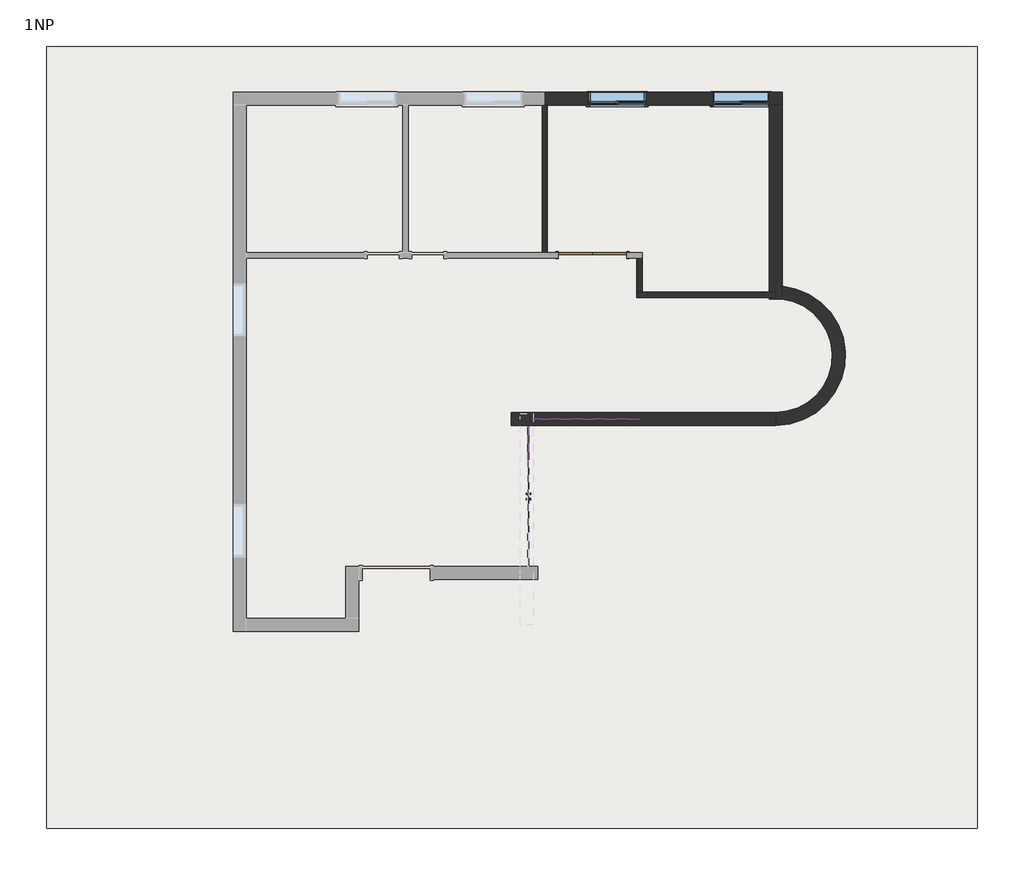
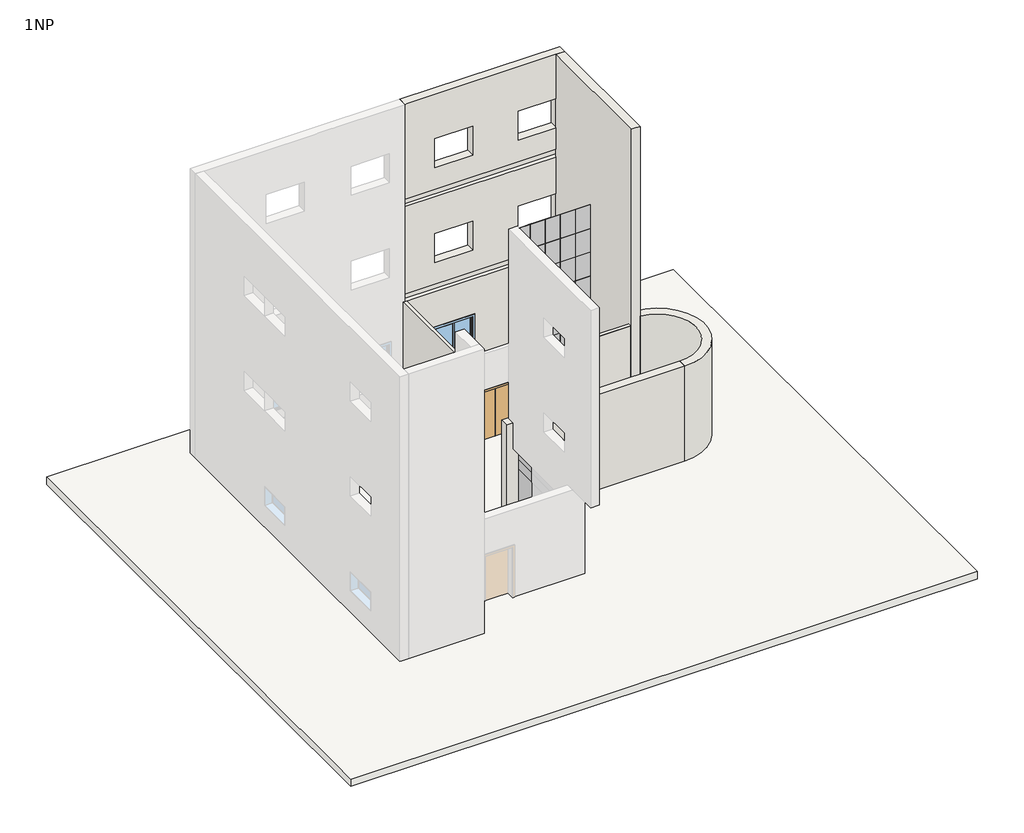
# One storey, part 2 of 2: 39 plates, 7 walls, 2 windows, 1 door, 1 slab.
"""IFC4 building model written with IfcOpenShell, lengths in millimetres."""

from ifc_helpers import new_model, si_unit, point, frame, frame_2d, origin, origin_with_axes, place, context, project, spatial, polyline, circle_curve, trimmed, segment, composite_curve, outline, extrude, faceted_brep, transform, mapped, element, save
from ifc_brep_helpers import plane_surface, revolved_surface, advanced_brep
from components import m_double_flush_1830_x_2083mm_7a28c534, system_panel_glazed_d6775a2a, system_panel_glazed_c3ce6646, system_panel_glazed_9e0dc01b, system_panel_glazed_e6f66e58, system_panel_glazed_1cea1c28, m_sliding_with_trim_1830_x_1220mm_f8e2f31e

model = new_model("IFC4")

# Units and contexts
model_context = context("Model", 3, world=origin())
ifc_project = project(units=[si_unit("LENGTHUNIT", "METRE", prefix="MILLI")], contexts=[model_context])

# Site, building, storey
site = spatial("IfcSite", under=ifc_project)
building = spatial("IfcBuilding", under=site)
storey = spatial("IfcBuildingStorey", under=building, Name="1NP", Elevation=0.0)

# Door
placement = place(None, origin())
m_double_flush_1830_x_2083mm_shape = m_double_flush_1830_x_2083mm_7a28c534(model_context)
element("IfcDoor", 1, ObjectType="M_Double-Flush : 1830 x 2083mm", at=placement, inside=storey, context=model_context, shape_type="MappedRepresentation", body=[
    mapped(m_double_flush_1830_x_2083mm_shape, transform((2118.243045, 5680.8503657, 0.0), x_axis=(0.9999999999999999, 0.0, 0.0), y_axis=(0.0, 0.9999999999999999, 0.0), z_axis=(0.0, 0.0, 1.0))),
])

# Plates
system_panel_glazed_shape = system_panel_glazed_d6775a2a(model_context)
element("IfcPlate", 2, ObjectType="System Panel : Glazed", at=placement, inside=storey, context=model_context, shape_type="MappedRepresentation", body=[
    mapped(system_panel_glazed_shape, transform((357.3775179, 624.8026806, 0.0), x_axis=(0.0, 1.0, 0.0), y_axis=(-1.0, 0.0, 0.0), z_axis=(0.0, 0.0, 1.0))),
])
system_panel_glazed_2_shape = system_panel_glazed_c3ce6646(model_context)
element("IfcPlate", 3, ObjectType="System Panel : Glazed", at=placement, inside=storey, context=model_context, shape_type="MappedRepresentation", body=[
    mapped(system_panel_glazed_2_shape, transform((1257.3775179, 1249.8026806, 5000.0), x_axis=(1.0, 0.0, 0.0), y_axis=(0.0, 1.0, 0.0), z_axis=(0.0, 0.0, 1.0))),
])
element("IfcPlate", 4, ObjectType="System Panel : Glazed", at=placement, inside=storey, context=model_context, shape_type="MappedRepresentation", body=[
    mapped(system_panel_glazed_2_shape, transform((1857.3775179, 1249.8026806, 5000.0), x_axis=(1.0, 0.0, 0.0), y_axis=(0.0, 1.0, 0.0), z_axis=(0.0, 0.0, 1.0))),
])
element("IfcPlate", 5, ObjectType="System Panel : Glazed", at=placement, inside=storey, context=model_context, shape_type="MappedRepresentation", body=[
    mapped(system_panel_glazed_2_shape, transform((2457.3775179, 1249.8026806, 5000.0), x_axis=(1.0, 0.0, 0.0), y_axis=(0.0, 1.0, 0.0), z_axis=(0.0, 0.0, 1.0))),
])
element("IfcPlate", 6, ObjectType="System Panel : Glazed", at=placement, inside=storey, context=model_context, shape_type="MappedRepresentation", body=[
    mapped(system_panel_glazed_2_shape, transform((1257.3775179, 1249.8026806, 6000.0), x_axis=(1.0, 0.0, 0.0), y_axis=(0.0, 1.0, 0.0), z_axis=(0.0, 0.0, 1.0))),
])
element("IfcPlate", 7, ObjectType="System Panel : Glazed", at=placement, inside=storey, context=model_context, shape_type="MappedRepresentation", body=[
    mapped(system_panel_glazed_2_shape, transform((1857.3775179, 1249.8026806, 6000.0), x_axis=(1.0, 0.0, 0.0), y_axis=(0.0, 1.0, 0.0), z_axis=(0.0, 0.0, 1.0))),
])
element("IfcPlate", 8, ObjectType="System Panel : Glazed", at=placement, inside=storey, context=model_context, shape_type="MappedRepresentation", body=[
    mapped(system_panel_glazed_2_shape, transform((2457.3775179, 1249.8026806, 6000.0), x_axis=(1.0, 0.0, 0.0), y_axis=(0.0, 1.0, 0.0), z_axis=(0.0, 0.0, 1.0))),
])
element("IfcPlate", 9, ObjectType="System Panel : Glazed", at=placement, inside=storey, context=model_context, shape_type="MappedRepresentation", body=[
    mapped(system_panel_glazed_2_shape, transform((1257.3775179, 1249.8026806, 7000.0), x_axis=(1.0, 0.0, 0.0), y_axis=(0.0, 1.0, 0.0), z_axis=(0.0, 0.0, 1.0))),
])
element("IfcPlate", 10, ObjectType="System Panel : Glazed", at=placement, inside=storey, context=model_context, shape_type="MappedRepresentation", body=[
    mapped(system_panel_glazed_2_shape, transform((1857.3775179, 1249.8026806, 7000.0), x_axis=(1.0, 0.0, 0.0), y_axis=(0.0, 1.0, 0.0), z_axis=(0.0, 0.0, 1.0))),
])
element("IfcPlate", 11, ObjectType="System Panel : Glazed", at=placement, inside=storey, context=model_context, shape_type="MappedRepresentation", body=[
    mapped(system_panel_glazed_2_shape, transform((2457.3775179, 1249.8026806, 7000.0), x_axis=(1.0, 0.0, 0.0), y_axis=(0.0, 1.0, 0.0), z_axis=(0.0, 0.0, 1.0))),
])
element("IfcPlate", 12, ObjectType="System Panel : Glazed", at=placement, inside=storey, context=model_context, shape_type="MappedRepresentation", body=[
    mapped(system_panel_glazed_2_shape, transform((1257.3775179, 1249.8026806, 8000.0), x_axis=(1.0, 0.0, 0.0), y_axis=(0.0, 1.0, 0.0), z_axis=(0.0, 0.0, 1.0))),
])
element("IfcPlate", 13, ObjectType="System Panel : Glazed", at=placement, inside=storey, context=model_context, shape_type="MappedRepresentation", body=[
    mapped(system_panel_glazed_2_shape, transform((1857.3775179, 1249.8026806, 8000.0), x_axis=(1.0, 0.0, 0.0), y_axis=(0.0, 1.0, 0.0), z_axis=(0.0, 0.0, 1.0))),
])
element("IfcPlate", 14, ObjectType="System Panel : Glazed", at=placement, inside=storey, context=model_context, shape_type="MappedRepresentation", body=[
    mapped(system_panel_glazed_2_shape, transform((2457.3775179, 1249.8026806, 8000.0), x_axis=(1.0, 0.0, 0.0), y_axis=(0.0, 1.0, 0.0), z_axis=(0.0, 0.0, 1.0))),
])
element("IfcPlate", 15, ObjectType="System Panel : Glazed", at=placement, inside=storey, context=model_context, shape_type="MappedRepresentation", body=[
    mapped(system_panel_glazed_2_shape, transform((1257.3775179, 1249.8026806, 9000.0), x_axis=(1.0, 0.0, 0.0), y_axis=(0.0, 1.0, 0.0), z_axis=(0.0, 0.0, 1.0))),
])
element("IfcPlate", 16, ObjectType="System Panel : Glazed", at=placement, inside=storey, context=model_context, shape_type="MappedRepresentation", body=[
    mapped(system_panel_glazed_2_shape, transform((1857.3775179, 1249.8026806, 9000.0), x_axis=(1.0, 0.0, 0.0), y_axis=(0.0, 1.0, 0.0), z_axis=(0.0, 0.0, 1.0))),
])
element("IfcPlate", 17, ObjectType="System Panel : Glazed", at=placement, inside=storey, context=model_context, shape_type="MappedRepresentation", body=[
    mapped(system_panel_glazed_2_shape, transform((2457.3775179, 1249.8026806, 9000.0), x_axis=(1.0, 0.0, 0.0), y_axis=(0.0, 1.0, 0.0), z_axis=(0.0, 0.0, 1.0))),
])
element("IfcPlate", 18, ObjectType="System Panel : Glazed", at=placement, inside=storey, context=model_context, shape_type="MappedRepresentation", body=[
    mapped(system_panel_glazed_2_shape, transform((1257.3775179, 1249.8026806, 10000.0), x_axis=(1.0, 0.0, 0.0), y_axis=(0.0, 1.0, 0.0), z_axis=(0.0, 0.0, 1.0))),
])
element("IfcPlate", 19, ObjectType="System Panel : Glazed", at=placement, inside=storey, context=model_context, shape_type="MappedRepresentation", body=[
    mapped(system_panel_glazed_2_shape, transform((1857.3775179, 1249.8026806, 10000.0), x_axis=(1.0, 0.0, 0.0), y_axis=(0.0, 1.0, 0.0), z_axis=(0.0, 0.0, 1.0))),
])
element("IfcPlate", 20, ObjectType="System Panel : Glazed", at=placement, inside=storey, context=model_context, shape_type="MappedRepresentation", body=[
    mapped(system_panel_glazed_2_shape, transform((2457.3775179, 1249.8026806, 10000.0), x_axis=(1.0, 0.0, 0.0), y_axis=(0.0, 1.0, 0.0), z_axis=(0.0, 0.0, 1.0))),
])
element("IfcPlate", 21, ObjectType="System Panel : Glazed", at=placement, inside=storey, context=model_context, shape_type="MappedRepresentation", body=[
    mapped(system_panel_glazed_2_shape, transform((1257.3775179, 1249.8026806, 11000.0), x_axis=(1.0, 0.0, 0.0), y_axis=(0.0, 1.0, 0.0), z_axis=(0.0, 0.0, 1.0))),
])
element("IfcPlate", 22, ObjectType="System Panel : Glazed", at=placement, inside=storey, context=model_context, shape_type="MappedRepresentation", body=[
    mapped(system_panel_glazed_2_shape, transform((1857.3775179, 1249.8026806, 11000.0), x_axis=(1.0, 0.0, 0.0), y_axis=(0.0, 1.0, 0.0), z_axis=(0.0, 0.0, 1.0))),
])
element("IfcPlate", 23, ObjectType="System Panel : Glazed", at=placement, inside=storey, context=model_context, shape_type="MappedRepresentation", body=[
    mapped(system_panel_glazed_2_shape, transform((2457.3775179, 1249.8026806, 11000.0), x_axis=(1.0, 0.0, 0.0), y_axis=(0.0, 1.0, 0.0), z_axis=(0.0, 0.0, 1.0))),
])
element("IfcPlate", 24, ObjectType="System Panel : Glazed", at=placement, inside=storey, context=model_context, shape_type="MappedRepresentation", body=[
    mapped(system_panel_glazed_2_shape, transform((3057.3775179, 1249.8026806, 4000.0), x_axis=(1.0, 0.0, 0.0), y_axis=(0.0, 1.0, 0.0), z_axis=(0.0, 0.0, 1.0))),
])
element("IfcPlate", 25, ObjectType="System Panel : Glazed", at=placement, inside=storey, context=model_context, shape_type="MappedRepresentation", body=[
    mapped(system_panel_glazed_2_shape, transform((3057.3775179, 1249.8026806, 5000.0), x_axis=(1.0, 0.0, 0.0), y_axis=(0.0, 1.0, 0.0), z_axis=(0.0, 0.0, 1.0))),
])
element("IfcPlate", 26, ObjectType="System Panel : Glazed", at=placement, inside=storey, context=model_context, shape_type="MappedRepresentation", body=[
    mapped(system_panel_glazed_2_shape, transform((3057.3775179, 1249.8026806, 6000.0), x_axis=(1.0, 0.0, 0.0), y_axis=(0.0, 1.0, 0.0), z_axis=(0.0, 0.0, 1.0))),
])
element("IfcPlate", 27, ObjectType="System Panel : Glazed", at=placement, inside=storey, context=model_context, shape_type="MappedRepresentation", body=[
    mapped(system_panel_glazed_2_shape, transform((3057.3775179, 1249.8026806, 7000.0), x_axis=(1.0, 0.0, 0.0), y_axis=(0.0, 1.0, 0.0), z_axis=(0.0, 0.0, 1.0))),
])
element("IfcPlate", 28, ObjectType="System Panel : Glazed", at=placement, inside=storey, context=model_context, shape_type="MappedRepresentation", body=[
    mapped(system_panel_glazed_2_shape, transform((3057.3775179, 1249.8026806, 8000.0), x_axis=(1.0, 0.0, 0.0), y_axis=(0.0, 1.0, 0.0), z_axis=(0.0, 0.0, 1.0))),
])
element("IfcPlate", 29, ObjectType="System Panel : Glazed", at=placement, inside=storey, context=model_context, shape_type="MappedRepresentation", body=[
    mapped(system_panel_glazed_2_shape, transform((3057.3775179, 1249.8026806, 9000.0), x_axis=(1.0, 0.0, 0.0), y_axis=(0.0, 1.0, 0.0), z_axis=(0.0, 0.0, 1.0))),
])
element("IfcPlate", 30, ObjectType="System Panel : Glazed", at=placement, inside=storey, context=model_context, shape_type="MappedRepresentation", body=[
    mapped(system_panel_glazed_2_shape, transform((3057.3775179, 1249.8026806, 10000.0), x_axis=(1.0, 0.0, 0.0), y_axis=(0.0, 1.0, 0.0), z_axis=(0.0, 0.0, 1.0))),
])
element("IfcPlate", 31, ObjectType="System Panel : Glazed", at=placement, inside=storey, context=model_context, shape_type="MappedRepresentation", body=[
    mapped(system_panel_glazed_2_shape, transform((3057.3775179, 1249.8026806, 11000.0), x_axis=(1.0, 0.0, 0.0), y_axis=(0.0, 1.0, 0.0), z_axis=(0.0, 0.0, 1.0))),
])
system_panel_glazed_3_shape = system_panel_glazed_9e0dc01b(model_context)
element("IfcPlate", 32, ObjectType="System Panel : Glazed", at=placement, inside=storey, context=model_context, shape_type="MappedRepresentation", body=[
    mapped(system_panel_glazed_3_shape, transform((744.8775179, 1249.8026806, 5000.0), x_axis=(1.0, 0.0, 0.0), y_axis=(0.0, 1.0, 0.0), z_axis=(0.0, 0.0, 1.0))),
])
element("IfcPlate", 33, ObjectType="System Panel : Glazed", at=placement, inside=storey, context=model_context, shape_type="MappedRepresentation", body=[
    mapped(system_panel_glazed_3_shape, transform((744.8775179, 1249.8026806, 6000.0), x_axis=(1.0, 0.0, 0.0), y_axis=(0.0, 1.0, 0.0), z_axis=(0.0, 0.0, 1.0))),
])
element("IfcPlate", 34, ObjectType="System Panel : Glazed", at=placement, inside=storey, context=model_context, shape_type="MappedRepresentation", body=[
    mapped(system_panel_glazed_3_shape, transform((744.8775179, 1249.8026806, 7000.0), x_axis=(1.0, 0.0, 0.0), y_axis=(0.0, 1.0, 0.0), z_axis=(0.0, 0.0, 1.0))),
])
element("IfcPlate", 35, ObjectType="System Panel : Glazed", at=placement, inside=storey, context=model_context, shape_type="MappedRepresentation", body=[
    mapped(system_panel_glazed_3_shape, transform((744.8775179, 1249.8026806, 8000.0), x_axis=(1.0, 0.0, 0.0), y_axis=(0.0, 1.0, 0.0), z_axis=(0.0, 0.0, 1.0))),
])
element("IfcPlate", 36, ObjectType="System Panel : Glazed", at=placement, inside=storey, context=model_context, shape_type="MappedRepresentation", body=[
    mapped(system_panel_glazed_3_shape, transform((744.8775179, 1249.8026806, 9000.0), x_axis=(1.0, 0.0, 0.0), y_axis=(0.0, 1.0, 0.0), z_axis=(0.0, 0.0, 1.0))),
])
element("IfcPlate", 37, ObjectType="System Panel : Glazed", at=placement, inside=storey, context=model_context, shape_type="MappedRepresentation", body=[
    mapped(system_panel_glazed_3_shape, transform((744.8775179, 1249.8026806, 10000.0), x_axis=(1.0, 0.0, 0.0), y_axis=(0.0, 1.0, 0.0), z_axis=(0.0, 0.0, 1.0))),
])
element("IfcPlate", 38, ObjectType="System Panel : Glazed", at=placement, inside=storey, context=model_context, shape_type="MappedRepresentation", body=[
    mapped(system_panel_glazed_3_shape, transform((744.8775179, 1249.8026806, 11000.0), x_axis=(1.0, 0.0, 0.0), y_axis=(0.0, 1.0, 0.0), z_axis=(0.0, 0.0, 1.0))),
])
system_panel_glazed_4_shape = system_panel_glazed_e6f66e58(model_context)
element("IfcPlate", 39, ObjectType="System Panel : Glazed", at=placement, inside=storey, context=model_context, shape_type="MappedRepresentation", body=[
    mapped(system_panel_glazed_4_shape, transform((357.3775179, 624.8026806, 2000.0), x_axis=(0.0, 1.0, 0.0), y_axis=(-1.0, 0.0, 0.0), z_axis=(0.0, 0.0, 1.0))),
])
system_panel_glazed_5_shape = system_panel_glazed_1cea1c28(model_context)
element("IfcPlate", 40, ObjectType="System Panel : Glazed", at=placement, inside=storey, context=model_context, shape_type="MappedRepresentation", body=[
    mapped(system_panel_glazed_5_shape, transform((357.3775179, 624.8026806, 2400.0), x_axis=(0.0, 1.0, 0.0), y_axis=(-1.0, 0.0, 0.0), z_axis=(0.0, 0.0, 1.0))),
])

# Slab
element("IfcSlab", 41, ObjectType="Generic 300mm", at=placement, inside=storey, context=model_context, shape_type="SweptSolid", body=[
    extrude(outline(polyline([(12456.1188993, 11292.3429374), (12456.1188993, -9707.6570626), (-12543.8811007, -9707.6570626), (-12543.8811007, 11292.3429374), (12456.1188993, 11292.3429374)])), frame((0.0, 0.0, -300.0), z_axis=(0.0, 0.0, 1.0), x_axis=(1.0, 0.0, 0.0)), (0.0, 0.0, 1.0), 300.0),
])

# Walls
element("IfcWall", 42, ObjectType="Exterior - Brick on Mtl. Stud", at=placement, inside=storey, context=model_context, shape_type="Brep", body=[
    faceted_brep([(7208.993045, 10061.6003657, 0.0), (833.993045, 10061.6003657, 0.0), (833.993045, 10061.6003657, 12000.0), (7208.993045, 10061.6003657, 12000.0), (5345.6922824, 10061.6003657, 6133.6), (5345.6922824, 10061.6003657, 4914.4), (6869.6922824, 10061.6003657, 4914.4), (6869.6922824, 10061.6003657, 6133.6), (2019.6922824, 10061.6003657, 6133.6), (2019.6922824, 10061.6003657, 4914.4), (3543.6922824, 10061.6003657, 4914.4), (3543.6922824, 10061.6003657, 6133.6), (5345.6922824, 10061.6003657, 10133.6), (5345.6922824, 10061.6003657, 8914.4), (6869.6922824, 10061.6003657, 8914.4), (6869.6922824, 10061.6003657, 10133.6), (2019.6922824, 10061.6003657, 10133.6), (2019.6922824, 10061.6003657, 8914.4), (3543.6922824, 10061.6003657, 8914.4), (3543.6922824, 10061.6003657, 10133.6), (5345.6922824, 10061.6003657, 2133.6), (5345.6922824, 10061.6003657, 914.4), (6869.6922824, 10061.6003657, 914.4), (6869.6922824, 10061.6003657, 2133.6), (2019.6922824, 10061.6003657, 2133.6), (2019.6922824, 10061.6003657, 914.4), (3543.6922824, 10061.6003657, 914.4), (3543.6922824, 10061.6003657, 2133.6), (833.993045, 9711.6003657, 0.0), (903.243045, 9711.6003657, 0.0), (6858.993045, 9711.6003657, 0.0), (7208.993045, 9711.6003657, 0.0), (7208.993045, 9711.6003657, 12000.0), (6858.993045, 9711.6003657, 12000.0), (903.243045, 9711.6003657, 12000.0), (833.993045, 9711.6003657, 12000.0), (833.993045, 9711.6003657, 8000.0), (903.243045, 9711.6003657, 8000.0), (7023.993045, 9711.6003657, 8000.0), (7023.993045, 9711.6003657, 7680.0), (833.993045, 9711.6003657, 7680.0), (833.993045, 9711.6003657, 4000.0), (7023.993045, 9711.6003657, 4000.0), (7023.993045, 9711.6003657, 3680.0), (903.243045, 9711.6003657, 3680.0), (833.993045, 9711.6003657, 3680.0), (5345.6922824, 9711.6003657, 4914.4), (5345.6922824, 9711.6003657, 6133.6), (6869.6922824, 9711.6003657, 6133.6), (6869.6922824, 9711.6003657, 4914.4), (2019.6922824, 9711.6003657, 4914.4), (2019.6922824, 9711.6003657, 6133.6), (3543.6922824, 9711.6003657, 6133.6), (3543.6922824, 9711.6003657, 4914.4), (5345.6922824, 9711.6003657, 8914.4), (5345.6922824, 9711.6003657, 10133.6), (6869.6922824, 9711.6003657, 10133.6), (6869.6922824, 9711.6003657, 8914.4), (2019.6922824, 9711.6003657, 8914.4), (2019.6922824, 9711.6003657, 10133.6), (3543.6922824, 9711.6003657, 10133.6), (3543.6922824, 9711.6003657, 8914.4), (5345.6922824, 9711.6003657, 914.4), (5345.6922824, 9711.6003657, 2133.6), (6869.6922824, 9711.6003657, 2133.6), (6869.6922824, 9711.6003657, 914.4), (2019.6922824, 9711.6003657, 914.4), (2019.6922824, 9711.6003657, 2133.6), (3543.6922824, 9711.6003657, 2133.6), (3543.6922824, 9711.6003657, 914.4), (833.993045, 9876.6003657, 3680.0), (833.993045, 9876.6003657, 4000.0), (833.993045, 9876.6003657, 7680.0), (833.993045, 9876.6003657, 8000.0), (7023.993045, 9876.6003657, 3680.0), (7023.993045, 9876.6003657, 4000.0), (7023.993045, 9876.6003657, 7680.0), (7023.993045, 9876.6003657, 8000.0)], [[[0, 1, 2, 3], [4, 5, 6, 7], [8, 9, 10, 11], [12, 13, 14, 15], [16, 17, 18, 19], [20, 21, 22, 23], [24, 25, 26, 27]], [[28, 29, 30, 31, 32, 33, 34, 35, 36, 37, 38, 39, 40, 41, 42, 43, 44, 45], [46, 47, 48, 49], [50, 51, 52, 53], [54, 55, 56, 57], [58, 59, 60, 61], [62, 63, 64, 65], [66, 67, 68, 69]], [[1, 0, 31, 30, 29, 28]], [[3, 2, 35, 34, 33, 32]], [[0, 3, 32, 31]], [[1, 28, 45, 70, 71, 41, 40, 72, 73, 36, 35, 2]], [[5, 4, 47, 46]], [[6, 5, 46, 49]], [[7, 6, 49, 48]], [[4, 7, 48, 47]], [[9, 8, 51, 50]], [[10, 9, 50, 53]], [[11, 10, 53, 52]], [[8, 11, 52, 51]], [[13, 12, 55, 54]], [[14, 13, 54, 57]], [[15, 14, 57, 56]], [[12, 15, 56, 55]], [[17, 16, 59, 58]], [[18, 17, 58, 61]], [[19, 18, 61, 60]], [[16, 19, 60, 59]], [[21, 20, 63, 62]], [[22, 21, 62, 65]], [[23, 22, 65, 64]], [[20, 23, 64, 63]], [[25, 24, 67, 66]], [[26, 25, 66, 69]], [[27, 26, 69, 68]], [[24, 27, 68, 67]], [[43, 74, 70, 45, 44]], [[71, 75, 42, 41]], [[74, 75, 71, 70]], [[75, 74, 43, 42]], [[39, 76, 72, 40]], [[73, 77, 38, 37, 36]], [[76, 77, 73, 72]], [[77, 76, 39, 38]]]),
])
element("IfcWall", 43, ObjectType="Exterior - Brick on Mtl. Stud", at=placement, inside=storey, context=model_context, shape_type="AdvancedBrep", body=[
    advanced_brep(
    [(6858.993045, 9711.6003657, 0.0), (6858.993045, 4501.5261065, 0.0), (6858.993045, 4501.5261065, 12000.0), (6858.993045, 9711.6003657, 12000.0), (7208.993045, 9711.6003657, 0.0), (7208.993045, 9711.6003657, 12000.0), (7208.993045, 4501.5261065, 12000.0), (7208.993045, 4501.5261065, 4000.0), (7208.993045, 4501.5261065, 0.0), (7208.993045, 4853.415836, 0.0)],
    [
        (0, 1),
        (1, 2),
        (2, 3),
        (3, 0),
        (4, 5),
        (5, 6),
        (6, 7),
        (7, 8),
        (8, 9),
        (9, 4),
        (0, 4),
        (8, 1, circle_curve(frame((7033.993045, 2986.6003657, 0.0), z_axis=(0.0, 0.0, 1.0), x_axis=(1.0, 0.0, 0.0)), 1525.0)),
        (2, 6, circle_curve(frame((7033.993045, 2986.6003657, 12000.0), z_axis=(0.0, 0.0, -1.0), x_axis=(1.0, 0.0, 0.0)), 1525.0)),
        (5, 3),
    ],
    [
        plane_surface(frame((6858.993045, 9719.3239111, 0.0), z_axis=(-1.0, 0.0, 0.0), x_axis=(0.0, -1.0, 0.0))),
        plane_surface(frame((7208.993045, 9719.3239111, 0.0), z_axis=(1.0, 0.0, 0.0), x_axis=(0.0, 1.0, 0.0))),
        plane_surface(frame((6858.993045, 9886.6003657, 0.0), z_axis=(0.0, 0.0, -1.0), x_axis=(1.0, 0.0, 0.0))),
        plane_surface(frame((6858.993045, 4686.6003657, 12000.0), z_axis=(0.0, 0.0, 1.0), x_axis=(1.0, 0.0, 0.0))),
        revolved_surface(polyline([(8558.993045, 2986.6003657, 0.0), (8558.993045, 2986.6003657, 12000.0)]), (7033.993045, 2986.6003657, 0.0), (0.0, 0.0, -1.0)),
        plane_surface(frame((7044.6922824, 9711.6003657, 0.0), z_axis=(0.0, 1.0, 0.0), x_axis=(1.0, 0.0, 0.0))),
    ],
    [
        (0, [[1, 2, 3, 4]]),
        (1, [[5, 6, 7, 8, 9, 10]]),
        (2, [[-1, 11, -10, -9, 12]]),
        (3, [[-3, 13, -6, 14]]),
        (4, [[-2, -12, -8, -7, -13]]),
        (5, [[-4, -14, -5, -11]]),
    ],
),
])
element("IfcWall", 44, ObjectType="Exterior - Brick on Mtl. Stud", at=placement, inside=storey, context=model_context, shape_type="SweptSolid", body=[
    extrude(outline(composite_curve([segment(polyline([(7033.993045, 1111.6003657), (7033.993045, 1461.6003657)]), True, "CONTINUOUS"), segment(trimmed(circle_curve(frame_2d((7033.993045, 2986.6003657)), 1525.0), [point((7033.993045, 1461.6003657))], [point((7208.993045, 4501.5261065))], True, "CARTESIAN"), True, "CONTINUOUS"), segment(polyline([(7208.993045, 4501.5261065), (7208.993045, 4853.415836)]), True, "CONTINUOUS"), segment(trimmed(circle_curve(frame_2d((7033.993045, 2986.6003657)), 1875.0), [point((7208.993045, 4853.415836))], [point((7033.993045, 1111.6003657))], False, "CARTESIAN"), True, "CONTINUOUS")], self_intersect=False)), origin_with_axes(), (0.0, 0.0, 1.0), 4000.0),
])
element("IfcWall", 45, ObjectType="Exterior - Brick on Mtl. Stud", at=placement, inside=storey, context=model_context, shape_type="SweptSolid", body=[
    extrude(outline(polyline([(-66.006955, 1461.6003657), (7033.993045, 1461.6003657), (7033.993045, 1111.6003657), (-66.006955, 1111.6003657), (-66.006955, 1461.6003657)])), origin_with_axes(), (0.0, 0.0, 1.0), 4000.0),
])
element("IfcWall", 46, ObjectType="Interior - 138mm Partition (1-hr)", at=placement, inside=storey, context=model_context, shape_type="Brep", body=[
    faceted_brep([(903.243045, 5750.1003657, 0.0), (903.243045, 9711.6003657, 0.0), (903.243045, 9711.6003657, 3680.0), (903.243045, 5750.1003657, 3680.0), (764.743045, 5750.1003657, 0.0), (764.743045, 5750.1003657, 3680.0), (764.743045, 9711.6003657, 3680.0), (764.743045, 9711.6003657, 0.0), (833.993045, 9711.6003657, 0.0), (833.993045, 9711.6003657, 3680.0)], [[[0, 1, 2, 3]], [[4, 5, 6, 7]], [[1, 0, 4, 7, 8]], [[2, 1, 8, 7, 6, 9]], [[0, 3, 5, 4]], [[3, 2, 9, 6, 5]]]),
])
element("IfcWall", 47, ObjectType="Interior - 138mm Partition (1-hr)", at=placement, inside=storey, context=model_context, shape_type="Brep", body=[
    faceted_brep([(7033.993045, 4690.0261065, 0.0), (3447.493045, 4690.0261065, 0.0), (3308.993045, 4690.0261065, 0.0), (3308.993045, 4690.0261065, 3680.0), (3447.493045, 4690.0261065, 3680.0), (7023.993045, 4690.0261065, 3680.0), (7033.993045, 4690.0261065, 3680.0), (7033.993045, 4551.5261065, 0.0), (7033.993045, 4551.5261065, 3680.0), (7023.993045, 4551.5261065, 3680.0), (3308.993045, 4551.5261065, 3680.0), (3308.993045, 4551.5261065, 0.0), (7033.993045, 4561.5261065, 3680.0), (3308.993045, 4561.5261065, 3680.0), (7023.993045, 4561.5261065, 3680.0)], [[[0, 1, 2, 3, 4, 5, 6]], [[7, 8, 9, 10, 11]], [[2, 1, 0, 7, 11]], [[0, 6, 12, 8, 7]], [[3, 2, 11, 10, 13]], [[13, 10, 9, 14]], [[6, 5, 14, 12]], [[14, 9, 8, 12]], [[5, 4, 3, 13, 14]]]),
])
element("IfcWall", 48, ObjectType="Interior - 138mm Partition (1-hr)", at=placement, inside=storey, context=model_context, shape_type="SweptSolid", body=[
    extrude(outline(polyline([(3447.493045, 5611.6003657), (3447.493045, 4690.0261065), (3308.993045, 4690.0261065), (3308.993045, 5611.6003657), (3447.493045, 5611.6003657)])), origin_with_axes(), (0.0, 0.0, 1.0), 3680.0),
])

# Windows
m_sliding_with_trim_1830_x_1220mm_shape = m_sliding_with_trim_1830_x_1220mm_f8e2f31e(model_context)
element("IfcWindow", 49, ObjectType="M_Sliding with Trim : 1830 x 1220mm", at=placement, inside=storey, context=model_context, shape_type="MappedRepresentation", body=[
    mapped(m_sliding_with_trim_1830_x_1220mm_shape, transform((6107.6922824, 9886.6003657, 0.0), x_axis=(-1.0, 0.0, 0.0), y_axis=(0.0, -1.0, 0.0), z_axis=(0.0, 0.0, 1.0))),
])
element("IfcWindow", 50, ObjectType="M_Sliding with Trim : 1830 x 1220mm", at=placement, inside=storey, context=model_context, shape_type="MappedRepresentation", body=[
    mapped(m_sliding_with_trim_1830_x_1220mm_shape, transform((2781.6922824, 9886.6003657, 0.0), x_axis=(-1.0, 0.0, 0.0), y_axis=(0.0, -1.0, 0.0), z_axis=(0.0, 0.0, 1.0))),
])

save(model, "model.ifc")
